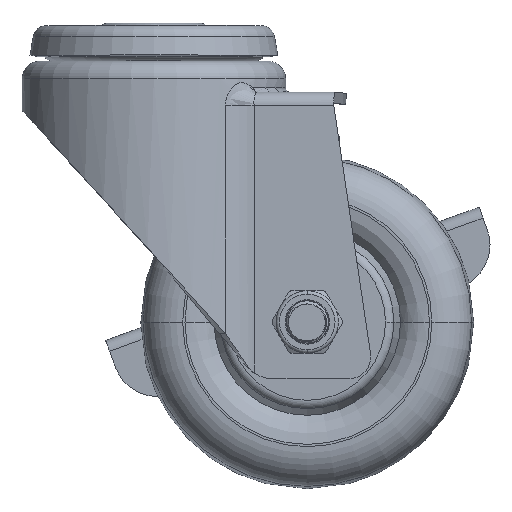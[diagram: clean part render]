
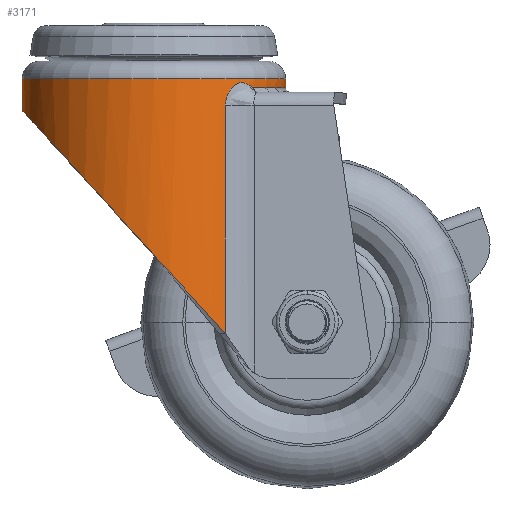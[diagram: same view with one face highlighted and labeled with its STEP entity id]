
A CAD part, top view. The second image highlights one B-rep face of the part: STEP entity #3171.
In plain terms, the highlighted cylindrical face has radius 29.652 mm (diameter 59.304 mm), a partial arc.
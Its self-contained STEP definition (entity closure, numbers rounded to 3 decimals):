
#441=CARTESIAN_POINT('',(-29.652,-22.8,0.));
#922=CARTESIAN_POINT('',(-29.652,-22.8,0.));
#923=CARTESIAN_POINT('',(-29.652,-22.8,1.268));
#924=CARTESIAN_POINT('',(-29.488,-22.98,3.821));
#925=CARTESIAN_POINT('',(-28.747,-23.795,7.612));
#926=CARTESIAN_POINT('',(-27.48,-25.187,11.376));
#927=CARTESIAN_POINT('',(-25.671,-27.176,15.039));
#928=CARTESIAN_POINT('',(-23.175,-29.918,18.686));
#929=CARTESIAN_POINT('',(-19.916,-33.5,22.147));
#930=CARTESIAN_POINT('',(-15.942,-37.868,25.177));
#931=CARTESIAN_POINT('',(-11.188,-43.093,27.65));
#932=CARTESIAN_POINT('',(-5.644,-49.187,29.303));
#933=CARTESIAN_POINT('',(0.116,-55.517,29.837));
#934=CARTESIAN_POINT('',(5.886,-61.859,29.258));
#935=CARTESIAN_POINT('',(11.46,-67.986,27.54));
#936=CARTESIAN_POINT('',(14.614,-71.452,25.859));
#937=CARTESIAN_POINT('',(16.075,-73.058,24.916));
#939=DIRECTION('',(0.,-1.,0.));
#940=VECTOR('',#939,7.);
#941=CARTESIAN_POINT('',(-29.652,-15.8,0.));
#942=LINE('',#941,#940);
#943=CARTESIAN_POINT('',(0.,-15.8,0.));
#944=DIRECTION('',(0.,1.,0.));
#945=DIRECTION('',(-1.,0.,0.));
#946=AXIS2_PLACEMENT_3D('',#943,#944,#945);
#948=DIRECTION('',(0.,-1.,0.));
#949=VECTOR('',#948,2.);
#950=CARTESIAN_POINT('',(29.652,-15.8,0.));
#951=LINE('',#950,#949);
#952=CARTESIAN_POINT('',(0.,-17.8,0.));
#953=DIRECTION('',(0.,-1.,0.));
#954=DIRECTION('',(1.,0.,0.));
#955=AXIS2_PLACEMENT_3D('',#952,#953,#954);
#957=CARTESIAN_POINT('',(22.47,-17.8,19.348));
#958=CARTESIAN_POINT('',(22.448,-17.8,19.374));
#959=CARTESIAN_POINT('',(22.401,-17.796,19.428));
#960=CARTESIAN_POINT('',(22.325,-17.776,19.514));
#961=CARTESIAN_POINT('',(22.243,-17.742,19.608));
#962=CARTESIAN_POINT('',(22.155,-17.696,19.708));
#963=CARTESIAN_POINT('',(22.057,-17.636,19.817));
#964=CARTESIAN_POINT('',(21.949,-17.564,19.937));
#965=CARTESIAN_POINT('',(21.827,-17.479,20.071));
#966=CARTESIAN_POINT('',(21.69,-17.383,20.218));
#967=CARTESIAN_POINT('',(21.535,-17.277,20.384));
#968=CARTESIAN_POINT('',(21.356,-17.164,20.571));
#969=CARTESIAN_POINT('',(21.153,-17.048,20.78));
#970=CARTESIAN_POINT('',(20.924,-16.936,21.01));
#971=CARTESIAN_POINT('',(20.672,-16.837,21.259));
#972=CARTESIAN_POINT('',(20.399,-16.758,21.521));
#973=CARTESIAN_POINT('',(20.119,-16.708,21.783));
#974=CARTESIAN_POINT('',(19.854,-16.69,22.025));
#975=CARTESIAN_POINT('',(19.594,-16.698,22.256));
#976=CARTESIAN_POINT('',(19.337,-16.732,22.48));
#977=CARTESIAN_POINT('',(19.086,-16.792,22.693));
#978=CARTESIAN_POINT('',(18.84,-16.875,22.898));
#979=CARTESIAN_POINT('',(18.596,-16.984,23.096));
#980=CARTESIAN_POINT('',(18.357,-17.117,23.287));
#981=CARTESIAN_POINT('',(18.122,-17.276,23.47));
#982=CARTESIAN_POINT('',(17.893,-17.46,23.645));
#983=CARTESIAN_POINT('',(17.669,-17.67,23.813));
#984=CARTESIAN_POINT('',(17.453,-17.906,23.972));
#985=CARTESIAN_POINT('',(17.24,-18.176,24.126));
#986=CARTESIAN_POINT('',(17.036,-18.475,24.27));
#987=CARTESIAN_POINT('',(16.85,-18.792,24.399));
#988=CARTESIAN_POINT('',(16.686,-19.115,24.511));
#989=CARTESIAN_POINT('',(16.547,-19.434,24.606));
#990=CARTESIAN_POINT('',(16.432,-19.741,24.683));
#991=CARTESIAN_POINT('',(16.34,-20.026,24.744));
#992=CARTESIAN_POINT('',(16.267,-20.289,24.791));
#993=CARTESIAN_POINT('',(16.21,-20.533,24.829));
#994=CARTESIAN_POINT('',(16.165,-20.763,24.858));
#995=CARTESIAN_POINT('',(16.131,-20.981,24.88));
#996=CARTESIAN_POINT('',(16.107,-21.178,24.896));
#997=CARTESIAN_POINT('',(16.091,-21.351,24.906));
#998=CARTESIAN_POINT('',(16.082,-21.508,24.912));
#999=CARTESIAN_POINT('',(16.076,-21.655,24.916));
#1000=CARTESIAN_POINT('',(16.075,-21.752,24.916));
#1001=CARTESIAN_POINT('',(16.075,-21.8,24.916));
#1003=DIRECTION('',(0.,-1.,0.));
#1004=VECTOR('',#1003,51.258);
#1005=CARTESIAN_POINT('',(16.075,-21.8,24.916));
#1006=LINE('',#1005,#1004);
#1292=CARTESIAN_POINT('',(-29.652,-15.8,0.));
#1294=VERTEX_POINT('',#1292);
#1296=CARTESIAN_POINT('',(29.652,-15.8,0.));
#1298=VERTEX_POINT('',#1296);
#1299=CARTESIAN_POINT('',(29.652,-17.8,0.));
#1300=CARTESIAN_POINT('',(22.47,-17.8,19.348));
#1301=VERTEX_POINT('',#1299);
#1302=VERTEX_POINT('',#1300);
#1305=VERTEX_POINT('',#1001);
#1352=VERTEX_POINT('',#441);
#1353=VERTEX_POINT('',#937);
#3155=CARTESIAN_POINT('',(0.,-7.88,0.));
#3156=DIRECTION('',(0.,-1.,0.));
#3157=DIRECTION('',(-1.,0.,0.));
#3158=AXIS2_PLACEMENT_3D('',#3155,#3156,#3157);
#3159=CYLINDRICAL_SURFACE('',#3158,29.652);
#3161=ORIENTED_EDGE('',*,*,#3160,.F.);
#3162=ORIENTED_EDGE('',*,*,#2166,.F.);
#3163=ORIENTED_EDGE('',*,*,#1530,.T.);
#3164=ORIENTED_EDGE('',*,*,#2163,.T.);
#3166=ORIENTED_EDGE('',*,*,#3165,.T.);
#3167=ORIENTED_EDGE('',*,*,#3146,.T.);
#3168=ORIENTED_EDGE('',*,*,#2808,.T.);
#3169=EDGE_LOOP('',(#3161,#3162,#3163,#3164,#3166,#3167,#3168));
#3170=FACE_OUTER_BOUND('',#3169,.F.);
#938=B_SPLINE_CURVE_WITH_KNOTS('',3,(#922,#923,#924,#925,#926,#927,#928,#929,
#930,#931,#932,#933,#934,#935,#936,#937),.UNSPECIFIED.,.F.,.F.,(4,1,1,1,1,1,1,1,
1,1,1,1,1,4),(0.,0.077,0.154,0.231,
0.308,0.385,0.462,0.538,
0.615,0.692,0.769,0.846,
0.923,1.),.UNSPECIFIED.);
#947=CIRCLE('',#946,29.652);
#956=CIRCLE('',#955,29.652);
#1002=B_SPLINE_CURVE_WITH_KNOTS('',3,(#957,#958,#959,#960,#961,#962,#963,#964,
#965,#966,#967,#968,#969,#970,#971,#972,#973,#974,#975,#976,#977,#978,#979,#980,
#981,#982,#983,#984,#985,#986,#987,#988,#989,#990,#991,#992,#993,#994,#995,#996,
#997,#998,#999,#1000,#1001),.UNSPECIFIED.,.F.,.F.,(4,1,1,1,1,1,1,1,1,1,1,1,1,1,
1,1,1,1,1,1,1,1,1,1,1,1,1,1,1,1,1,1,1,1,1,1,1,1,1,1,1,1,4),(0.,
0.024,0.048,0.071,0.095,
0.119,0.143,0.167,0.19,
0.214,0.238,0.262,0.286,
0.31,0.333,0.357,0.381,
0.405,0.429,0.452,0.476,0.5,
0.524,0.548,0.571,0.595,
0.619,0.643,0.667,0.69,
0.714,0.738,0.762,0.786,
0.81,0.833,0.857,0.881,
0.905,0.929,0.952,0.976,1.),
.UNSPECIFIED.);
#1530=EDGE_CURVE('',#1294,#1298,#947,.T.);
#2163=EDGE_CURVE('',#1298,#1301,#951,.T.);
#2166=EDGE_CURVE('',#1294,#1352,#942,.T.);
#2808=EDGE_CURVE('',#1305,#1353,#1006,.T.);
#3146=EDGE_CURVE('',#1302,#1305,#1002,.T.);
#3160=EDGE_CURVE('',#1352,#1353,#938,.T.);
#3165=EDGE_CURVE('',#1301,#1302,#956,.T.);
#3171=ADVANCED_FACE('',(#3170),#3159,.T.);
